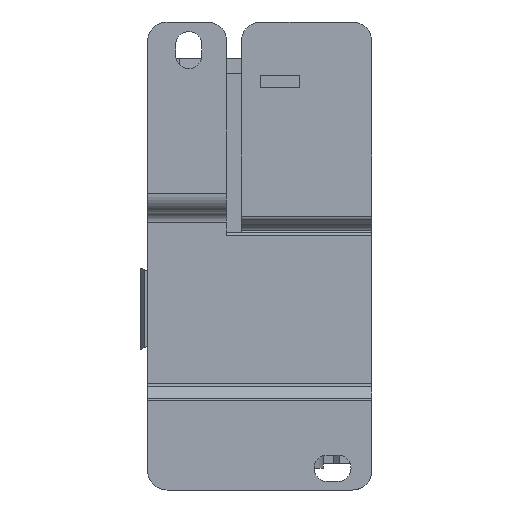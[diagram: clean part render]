
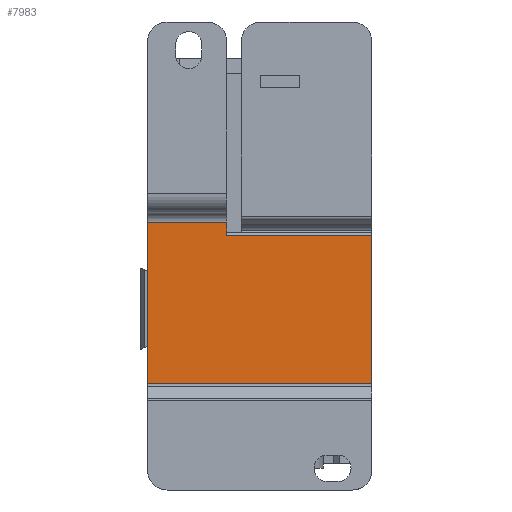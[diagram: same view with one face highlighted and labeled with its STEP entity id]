
A CAD part, front view. The second image highlights one B-rep face of the part: STEP entity #7983.
In plain terms, the highlighted planar face has unit normal (0, -1, 0).
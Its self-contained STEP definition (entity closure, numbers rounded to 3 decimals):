
#67=PLANE('',#8527);
#969=ORIENTED_EDGE('',*,*,#3266,.F.);
#970=ORIENTED_EDGE('',*,*,#3327,.F.);
#971=ORIENTED_EDGE('',*,*,#3325,.F.);
#972=ORIENTED_EDGE('',*,*,#3328,.T.);
#973=ORIENTED_EDGE('',*,*,#3329,.F.);
#974=ORIENTED_EDGE('',*,*,#3330,.F.);
#3266=EDGE_CURVE('',#4458,#4457,#5234,.T.);
#3325=EDGE_CURVE('',#4500,#4501,#5272,.T.);
#3327=EDGE_CURVE('',#4501,#4458,#5274,.T.);
#3328=EDGE_CURVE('',#4500,#4502,#5275,.T.);
#3329=EDGE_CURVE('',#4503,#4502,#5276,.T.);
#3330=EDGE_CURVE('',#4457,#4503,#5277,.T.);
#4457=VERTEX_POINT('',#11946);
#4458=VERTEX_POINT('',#11948);
#4500=VERTEX_POINT('',#12078);
#4501=VERTEX_POINT('',#12080);
#4502=VERTEX_POINT('',#12085);
#4503=VERTEX_POINT('',#12087);
#5234=LINE('',#11949,#6040);
#5272=LINE('',#12079,#6078);
#5274=LINE('',#12083,#6080);
#5275=LINE('',#12084,#6081);
#5276=LINE('',#12086,#6082);
#5277=LINE('',#12088,#6083);
#6040=VECTOR('',#9482,1000.);
#6078=VECTOR('',#9594,1000.);
#6080=VECTOR('',#9598,1000.);
#6081=VECTOR('',#9599,1000.);
#6082=VECTOR('',#9600,1000.);
#6083=VECTOR('',#9601,1000.);
#6866=EDGE_LOOP('',(#969,#970,#971,#972,#973,#974));
#7336=FACE_BOUND('',#6866,.T.);
#7983=ADVANCED_FACE('',(#7336),#67,.T.);
#8527=AXIS2_PLACEMENT_3D('',#12082,#9596,#9597);
#9482=DIRECTION('',(1.,0.,0.));
#9594=DIRECTION('',(-1.,0.,0.));
#9596=DIRECTION('',(0.,-1.,0.));
#9597=DIRECTION('',(-1.,0.,0.));
#9598=DIRECTION('',(0.,0.,1.));
#9599=DIRECTION('',(0.,0.,1.));
#9600=DIRECTION('',(1.,0.,0.));
#9601=DIRECTION('',(0.,0.,-1.));
#11946=CARTESIAN_POINT('',(-6.75,6.,-30.65));
#11948=CARTESIAN_POINT('',(-23.,6.,-30.65));
#11949=CARTESIAN_POINT('',(-23.,6.,-30.65));
#12078=CARTESIAN_POINT('',(23.,6.,-65.51));
#12079=CARTESIAN_POINT('',(23.,6.,-65.51));
#12080=CARTESIAN_POINT('',(-23.,6.,-65.51));
#12082=CARTESIAN_POINT('',(-37.,6.,-31.15));
#12083=CARTESIAN_POINT('',(-23.,6.,-65.51));
#12084=CARTESIAN_POINT('',(23.,6.,-65.51));
#12085=CARTESIAN_POINT('',(23.,6.,-33.25));
#12086=CARTESIAN_POINT('',(-6.75,6.,-33.25));
#12087=CARTESIAN_POINT('',(-6.75,6.,-33.25));
#12088=CARTESIAN_POINT('',(-6.75,6.,-30.65));
